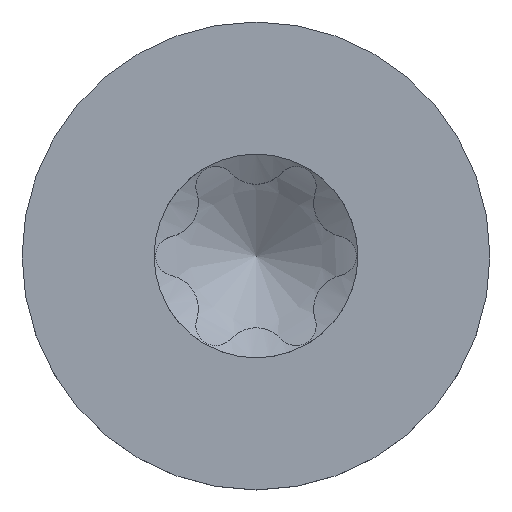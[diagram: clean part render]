
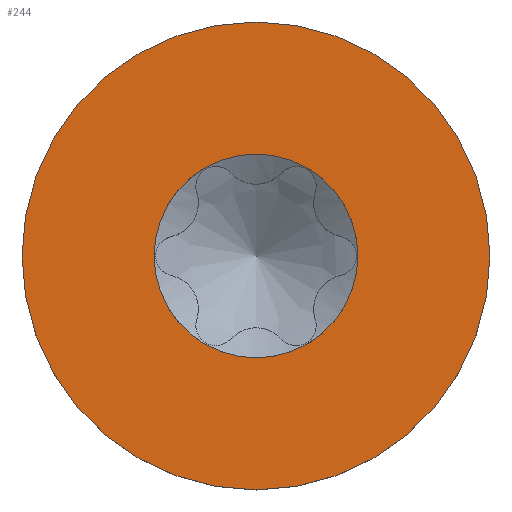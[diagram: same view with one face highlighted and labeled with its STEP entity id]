
A CAD part, top view. The second image highlights one B-rep face of the part: STEP entity #244.
In plain terms, the highlighted planar face has unit normal (0, 0, 1).
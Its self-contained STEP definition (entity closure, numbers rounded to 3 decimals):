
#199=PLANE('',#1269);
#207=FACE_BOUND('',#394,.T.);
#208=FACE_BOUND('',#395,.T.);
#244=ADVANCED_FACE('',(#207,#208),#199,.F.);
#394=EDGE_LOOP('',(#632));
#395=EDGE_LOOP('',(#633));
#632=ORIENTED_EDGE('',*,*,#1105,.F.);
#633=ORIENTED_EDGE('',*,*,#1106,.F.);
#985=VERTEX_POINT('',#2859);
#986=VERTEX_POINT('',#2861);
#1105=EDGE_CURVE('',#985,#985,#1248,.T.);
#1106=EDGE_CURVE('',#986,#986,#1249,.T.);
#1248=CIRCLE('',#1267,0.61);
#1249=CIRCLE('',#1268,1.4);
#1267=AXIS2_PLACEMENT_3D('',#2858,#1322,#1323);
#1268=AXIS2_PLACEMENT_3D('',#2860,#1324,#1325);
#1269=AXIS2_PLACEMENT_3D('',#2862,#1326,#1327);
#1322=DIRECTION('',(0.,0.,1.));
#1323=DIRECTION('',(-1.,0.,0.));
#1324=DIRECTION('',(0.,0.,-1.));
#1325=DIRECTION('',(-1.,0.,0.));
#1326=DIRECTION('',(0.,0.,-1.));
#1327=DIRECTION('',(-1.,0.,0.));
#2858=CARTESIAN_POINT('',(0.,0.,1.155));
#2859=CARTESIAN_POINT('',(-0.61,0.,1.155));
#2860=CARTESIAN_POINT('',(0.,0.,1.155));
#2861=CARTESIAN_POINT('',(-1.4,0.,1.155));
#2862=CARTESIAN_POINT('',(0.,0.,1.155));
